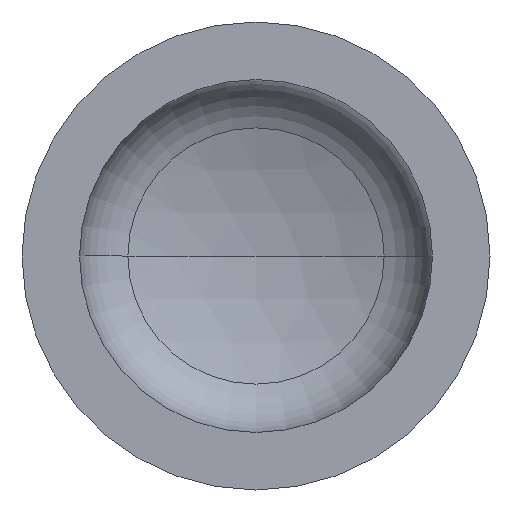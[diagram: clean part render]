
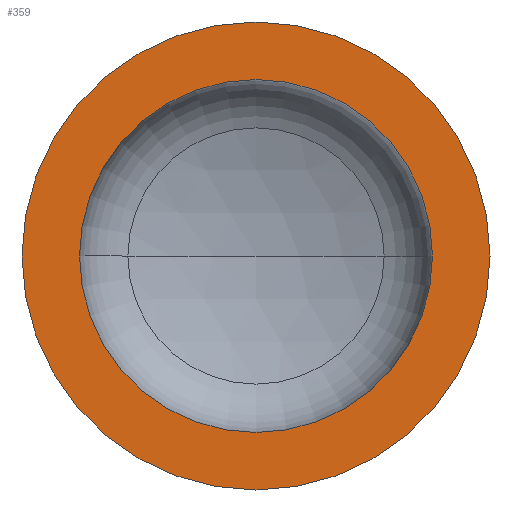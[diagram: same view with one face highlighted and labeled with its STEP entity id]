
A CAD part, front view. The second image highlights one B-rep face of the part: STEP entity #359.
In plain terms, the highlighted planar face has unit normal (0, -1, 0).
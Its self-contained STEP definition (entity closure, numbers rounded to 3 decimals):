
#8 = AXIS2_PLACEMENT_3D ( 'NONE', #291, #392, #200 ) ;
#13 = EDGE_LOOP ( 'NONE', ( #34, #91 ) ) ;
#34 = ORIENTED_EDGE ( 'NONE', *, *, #365, .T. ) ;
#44 = VERTEX_POINT ( 'NONE', #345 ) ;
#47 = CARTESIAN_POINT ( 'NONE',  ( -350., 0., 0. ) ) ;
#60 = EDGE_LOOP ( 'NONE', ( #125, #130 ) ) ;
#66 = VERTEX_POINT ( 'NONE', #251 ) ;
#73 = AXIS2_PLACEMENT_3D ( 'NONE', #298, #296, #305 ) ;
#76 = AXIS2_PLACEMENT_3D ( 'NONE', #339, #247, #362 ) ;
#91 = ORIENTED_EDGE ( 'NONE', *, *, #99, .T. ) ;
#99 = EDGE_CURVE ( 'NONE', #44, #66, #102, .T. ) ;
#102 = CIRCLE ( 'NONE', #76, 350. ) ;
#104 = EDGE_CURVE ( 'NONE', #129, #114, #240, .T. ) ;
#114 = VERTEX_POINT ( 'NONE', #192 ) ;
#125 = ORIENTED_EDGE ( 'NONE', *, *, #104, .F. ) ;
#126 = DIRECTION ( 'NONE',  ( 0., 1., 0. ) ) ;
#129 = VERTEX_POINT ( 'NONE', #293 ) ;
#130 = ORIENTED_EDGE ( 'NONE', *, *, #341, .F. ) ;
#153 = DIRECTION ( 'NONE',  ( -1., 0., 0. ) ) ;
#173 = PLANE ( 'NONE',  #340 ) ;
#192 = CARTESIAN_POINT ( 'NONE',  ( -264., 0., 0. ) ) ;
#196 = CIRCLE ( 'NONE', #8, 264. ) ;
#200 = DIRECTION ( 'NONE',  ( 1., 0., 0. ) ) ;
#235 = CARTESIAN_POINT ( 'NONE',  ( 0., 0., 0. ) ) ;
#240 = CIRCLE ( 'NONE', #73, 264. ) ;
#247 = DIRECTION ( 'NONE',  ( 0., -1., 0. ) ) ;
#251 = CARTESIAN_POINT ( 'NONE',  ( 350., 0., 0. ) ) ;
#254 = FACE_OUTER_BOUND ( 'NONE', #13, .T. ) ;
#291 = CARTESIAN_POINT ( 'NONE',  ( 0., 0., 0. ) ) ;
#293 = CARTESIAN_POINT ( 'NONE',  ( 264., 0., 0. ) ) ;
#296 = DIRECTION ( 'NONE',  ( 0., -1., 0. ) ) ;
#298 = CARTESIAN_POINT ( 'NONE',  ( 0., 0., 0. ) ) ;
#300 = DIRECTION ( 'NONE',  ( 1., 0., 0. ) ) ;
#305 = DIRECTION ( 'NONE',  ( 1., 0., 0. ) ) ;
#308 = CIRCLE ( 'NONE', #353, 350. ) ;
#326 = FACE_BOUND ( 'NONE', #60, .T. ) ;
#339 = CARTESIAN_POINT ( 'NONE',  ( 0., 0., 0. ) ) ;
#340 = AXIS2_PLACEMENT_3D ( 'NONE', #47, #126, #153 ) ;
#341 = EDGE_CURVE ( 'NONE', #114, #129, #196, .T. ) ;
#345 = CARTESIAN_POINT ( 'NONE',  ( -350., 0., 0. ) ) ;
#353 = AXIS2_PLACEMENT_3D ( 'NONE', #235, #407, #300 ) ;
#359 = ADVANCED_FACE ( 'NONE', ( #326, #254 ), #173, .F. ) ;
#362 = DIRECTION ( 'NONE',  ( 1., 0., 0. ) ) ;
#365 = EDGE_CURVE ( 'NONE', #66, #44, #308, .T. ) ;
#392 = DIRECTION ( 'NONE',  ( 0., -1., 0. ) ) ;
#407 = DIRECTION ( 'NONE',  ( 0., -1., 0. ) ) ;
